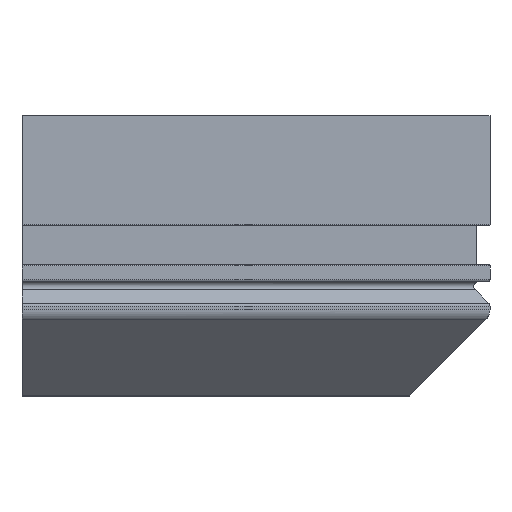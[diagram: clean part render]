
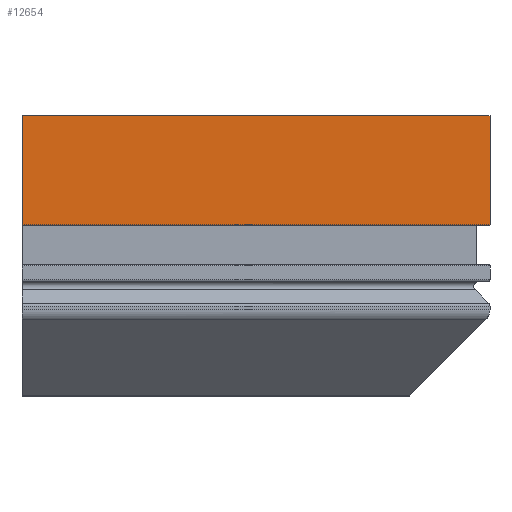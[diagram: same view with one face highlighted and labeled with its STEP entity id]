
A CAD part, front view. The second image highlights one B-rep face of the part: STEP entity #12654.
In plain terms, the highlighted planar face has unit normal (0, -1, 0) as drawn and (-1, 0, 0) by its records, which use the part's own axes.
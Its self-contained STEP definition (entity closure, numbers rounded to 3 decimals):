
#8423=DIRECTION('',(0.,0.,1.));
#8424=VECTOR('',#8423,23.31);
#8425=CARTESIAN_POINT('',(-30.873,100.,6.69));
#8426=LINE('',#8425,#8424);
#8765=DIRECTION('',(0.,1.,0.));
#8766=VECTOR('',#8765,100.);
#8767=CARTESIAN_POINT('',(-30.873,0.,6.69));
#8768=LINE('',#8767,#8766);
#8769=DIRECTION('',(0.,0.,-1.));
#8770=VECTOR('',#8769,23.31);
#8771=CARTESIAN_POINT('',(-30.873,0.,30.));
#8772=LINE('',#8771,#8770);
#10309=DIRECTION('',(0.,1.,0.));
#10310=VECTOR('',#10309,100.);
#10311=CARTESIAN_POINT('',(-30.873,0.,30.));
#10312=LINE('',#10311,#10310);
#10950=CARTESIAN_POINT('',(-30.873,100.,6.69));
#10951=VERTEX_POINT('',#10950);
#10952=CARTESIAN_POINT('',(-30.873,100.,30.));
#10953=VERTEX_POINT('',#10952);
#11404=CARTESIAN_POINT('',(-30.873,0.,6.69));
#11405=VERTEX_POINT('',#11404);
#11406=CARTESIAN_POINT('',(-30.873,0.,30.));
#11407=VERTEX_POINT('',#11406);
#12641=CARTESIAN_POINT('',(-30.873,0.,6.69));
#12642=DIRECTION('',(-1.,0.,0.));
#12643=DIRECTION('',(0.,0.,1.));
#12644=AXIS2_PLACEMENT_3D('',#12641,#12642,#12643);
#12645=PLANE('',#12644);
#12647=ORIENTED_EDGE('',*,*,#12646,.T.);
#12648=ORIENTED_EDGE('',*,*,#11921,.T.);
#12650=ORIENTED_EDGE('',*,*,#12649,.F.);
#12651=ORIENTED_EDGE('',*,*,#12180,.T.);
#12652=EDGE_LOOP('',(#12647,#12648,#12650,#12651));
#12653=FACE_OUTER_BOUND('',#12652,.F.);
#12654=ADVANCED_FACE('',(#12653),#12645,.T.);
#11921=EDGE_CURVE('',#10951,#10953,#8426,.T.);
#12180=EDGE_CURVE('',#11407,#11405,#8772,.T.);
#12646=EDGE_CURVE('',#11405,#10951,#8768,.T.);
#12649=EDGE_CURVE('',#11407,#10953,#10312,.T.);
